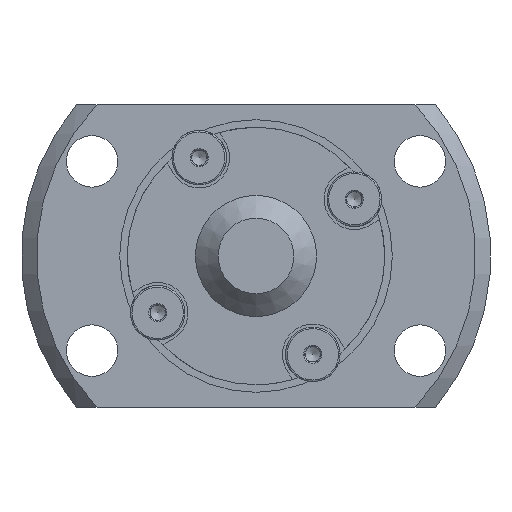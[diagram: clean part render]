
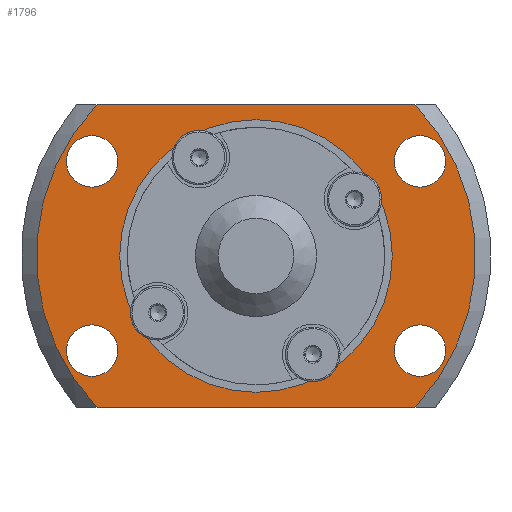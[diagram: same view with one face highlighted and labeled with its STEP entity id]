
A CAD part, left-side view. The second image highlights one B-rep face of the part: STEP entity #1796.
In plain terms, the highlighted planar face has unit normal (-1, 0, 0).
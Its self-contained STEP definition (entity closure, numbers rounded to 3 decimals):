
#48=LINE('',#3044,#160);
#49=LINE('',#3045,#161);
#160=VECTOR('',#2324,1000.);
#161=VECTOR('',#2325,1000.);
#458=ORIENTED_EDGE('',*,*,#930,.T.);
#459=ORIENTED_EDGE('',*,*,#931,.F.);
#460=ORIENTED_EDGE('',*,*,#908,.F.);
#461=ORIENTED_EDGE('',*,*,#932,.F.);
#462=ORIENTED_EDGE('',*,*,#928,.F.);
#463=ORIENTED_EDGE('',*,*,#933,.T.);
#464=ORIENTED_EDGE('',*,*,#934,.T.);
#465=ORIENTED_EDGE('',*,*,#935,.T.);
#466=ORIENTED_EDGE('',*,*,#936,.T.);
#908=EDGE_CURVE('',#1151,#1149,#1280,.T.);
#928=EDGE_CURVE('',#1165,#1166,#1293,.T.);
#930=EDGE_CURVE('',#1167,#1167,#1294,.T.);
#931=EDGE_CURVE('',#1149,#1165,#48,.T.);
#932=EDGE_CURVE('',#1166,#1151,#49,.T.);
#933=EDGE_CURVE('',#1168,#1168,#1295,.T.);
#934=EDGE_CURVE('',#1169,#1169,#1296,.T.);
#935=EDGE_CURVE('',#1170,#1170,#1297,.T.);
#936=EDGE_CURVE('',#1171,#1171,#1298,.T.);
#1149=VERTEX_POINT('',#2973);
#1151=VERTEX_POINT('',#2980);
#1165=VERTEX_POINT('',#3034);
#1166=VERTEX_POINT('',#3036);
#1167=VERTEX_POINT('',#3043);
#1168=VERTEX_POINT('',#3047);
#1169=VERTEX_POINT('',#3049);
#1170=VERTEX_POINT('',#3051);
#1171=VERTEX_POINT('',#3053);
#1280=CIRCLE('',#1969,14.5);
#1293=CIRCLE('',#1993,14.5);
#1294=CIRCLE('',#1995,9.);
#1295=CIRCLE('',#1996,1.7);
#1296=CIRCLE('',#1997,1.7);
#1297=CIRCLE('',#1998,1.7);
#1298=CIRCLE('',#1999,1.7);
#1394=EDGE_LOOP('',(#458));
#1395=EDGE_LOOP('',(#459,#460,#461,#462));
#1396=EDGE_LOOP('',(#463));
#1397=EDGE_LOOP('',(#464));
#1398=EDGE_LOOP('',(#465));
#1399=EDGE_LOOP('',(#466));
#1564=FACE_BOUND('',#1394,.T.);
#1565=FACE_BOUND('',#1395,.T.);
#1566=FACE_BOUND('',#1396,.T.);
#1567=FACE_BOUND('',#1397,.T.);
#1568=FACE_BOUND('',#1398,.T.);
#1569=FACE_BOUND('',#1399,.T.);
#1699=PLANE('',#1994);
#1796=ADVANCED_FACE('',(#1564,#1565,#1566,#1567,#1568,#1569),#1699,.T.);
#1969=AXIS2_PLACEMENT_3D('',#2981,#2266,#2267);
#1993=AXIS2_PLACEMENT_3D('',#3035,#2318,#2319);
#1994=AXIS2_PLACEMENT_3D('',#3041,#2320,#2321);
#1995=AXIS2_PLACEMENT_3D('',#3042,#2322,#2323);
#1996=AXIS2_PLACEMENT_3D('',#3046,#2326,#2327);
#1997=AXIS2_PLACEMENT_3D('',#3048,#2328,#2329);
#1998=AXIS2_PLACEMENT_3D('',#3050,#2330,#2331);
#1999=AXIS2_PLACEMENT_3D('',#3052,#2332,#2333);
#2266=DIRECTION('',(1.,0.,0.));
#2267=DIRECTION('',(0.,0.,-1.));
#2318=DIRECTION('',(1.,0.,0.));
#2319=DIRECTION('',(0.,0.,-1.));
#2320=DIRECTION('',(-1.,0.,0.));
#2321=DIRECTION('',(0.,0.,1.));
#2322=DIRECTION('',(1.,0.,0.));
#2323=DIRECTION('',(0.,0.,-1.));
#2324=DIRECTION('',(0.,1.,0.));
#2325=DIRECTION('',(0.,-1.,0.));
#2326=DIRECTION('',(1.,0.,0.));
#2327=DIRECTION('',(0.,0.,-1.));
#2328=DIRECTION('',(1.,0.,0.));
#2329=DIRECTION('',(0.,0.,-1.));
#2330=DIRECTION('',(1.,0.,0.));
#2331=DIRECTION('',(0.,0.,-1.));
#2332=DIRECTION('',(1.,0.,0.));
#2333=DIRECTION('',(0.,0.,-1.));
#2973=CARTESIAN_POINT('',(6.,-10.5,-10.));
#2980=CARTESIAN_POINT('',(6.,-10.5,10.));
#2981=CARTESIAN_POINT('',(6.,0.,0.));
#3034=CARTESIAN_POINT('',(6.,10.5,-10.));
#3035=CARTESIAN_POINT('',(6.,0.,0.));
#3036=CARTESIAN_POINT('',(6.,10.5,10.));
#3041=CARTESIAN_POINT('',(6.,14.5,0.));
#3042=CARTESIAN_POINT('',(6.,0.,0.));
#3043=CARTESIAN_POINT('',(6.,0.,-9.));
#3044=CARTESIAN_POINT('',(6.,14.5,-10.));
#3045=CARTESIAN_POINT('',(6.,14.5,10.));
#3046=CARTESIAN_POINT('',(6.,10.825,-6.25));
#3047=CARTESIAN_POINT('',(6.,10.825,-7.95));
#3048=CARTESIAN_POINT('',(6.,-10.825,6.25));
#3049=CARTESIAN_POINT('',(6.,-10.825,4.55));
#3050=CARTESIAN_POINT('',(6.,-10.825,-6.25));
#3051=CARTESIAN_POINT('',(6.,-10.825,-7.95));
#3052=CARTESIAN_POINT('',(6.,10.825,6.25));
#3053=CARTESIAN_POINT('',(6.,10.825,4.55));
